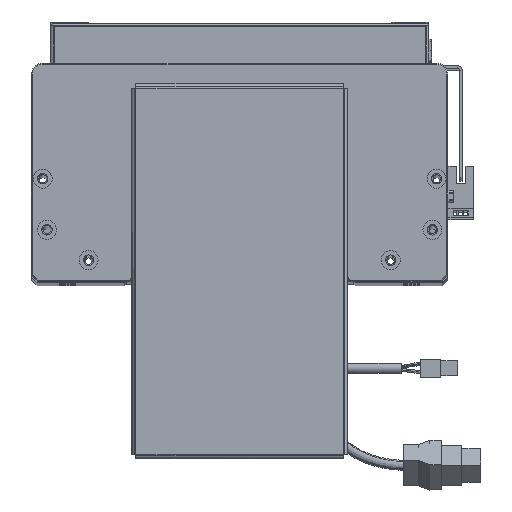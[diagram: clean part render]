
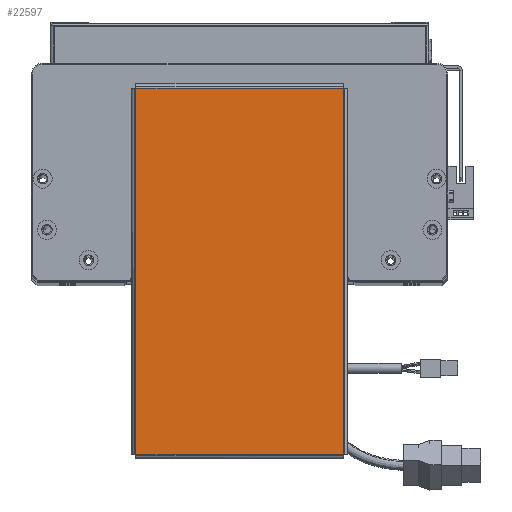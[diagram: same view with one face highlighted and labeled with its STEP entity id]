
A CAD part, top view. The second image highlights one B-rep face of the part: STEP entity #22597.
In plain terms, the highlighted planar face has unit normal (0, 0, 1).
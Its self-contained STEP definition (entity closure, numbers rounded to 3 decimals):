
#2551 = LINE ( 'NONE', #52157, #42416 ) ;
#5632 = CARTESIAN_POINT ( 'NONE',  ( 96.763, 54.763, 0. ) ) ;
#11364 = VECTOR ( 'NONE', #61937, 1000. ) ;
#13913 = ORIENTED_EDGE ( 'NONE', *, *, #20737, .T. ) ;
#14064 = DIRECTION ( 'NONE',  ( 0., 0., 1. ) ) ;
#14631 = EDGE_CURVE ( 'NONE', #22362, #54471, #65678, .T. ) ;
#15545 = ORIENTED_EDGE ( 'NONE', *, *, #20359, .T. ) ;
#17104 = AXIS2_PLACEMENT_3D ( 'NONE', #65167, #14064, #39295 ) ;
#17140 = EDGE_CURVE ( 'NONE', #54471, #54017, #61921, .T. ) ;
#20359 = EDGE_CURVE ( 'NONE', #54017, #27286, #60858, .T. ) ;
#20737 = EDGE_CURVE ( 'NONE', #27286, #22362, #2551, .T. ) ;
#21595 = DIRECTION ( 'NONE',  ( 0., -1., 0. ) ) ;
#22362 = VERTEX_POINT ( 'NONE', #33159 ) ;
#22597 = ADVANCED_FACE ( 'NONE', ( #50149 ), #65593, .T. ) ;
#24899 = VECTOR ( 'NONE', #53799, 1000. ) ;
#27286 = VERTEX_POINT ( 'NONE', #59482 ) ;
#31065 = ORIENTED_EDGE ( 'NONE', *, *, #14631, .T. ) ;
#31334 = CARTESIAN_POINT ( 'NONE',  ( -96.793, -54.763, 0. ) ) ;
#31580 = ORIENTED_EDGE ( 'NONE', *, *, #17140, .T. ) ;
#31762 = EDGE_LOOP ( 'NONE', ( #31065, #31580, #15545, #13913 ) ) ;
#32379 = VECTOR ( 'NONE', #39658, 1000. ) ;
#33159 = CARTESIAN_POINT ( 'NONE',  ( -96.763, -54.763, 0. ) ) ;
#39295 = DIRECTION ( 'NONE',  ( 1., 0., 0. ) ) ;
#39658 = DIRECTION ( 'NONE',  ( 0., 1., 0. ) ) ;
#42416 = VECTOR ( 'NONE', #21595, 1000. ) ;
#49087 = CARTESIAN_POINT ( 'NONE',  ( 96.763, -54.763, 0. ) ) ;
#50149 = FACE_OUTER_BOUND ( 'NONE', #31762, .T. ) ;
#52157 = CARTESIAN_POINT ( 'NONE',  ( -96.763, 54.793, 0. ) ) ;
#53799 = DIRECTION ( 'NONE',  ( -1., 0., 0. ) ) ;
#54017 = VERTEX_POINT ( 'NONE', #5632 ) ;
#54471 = VERTEX_POINT ( 'NONE', #49087 ) ;
#55678 = CARTESIAN_POINT ( 'NONE',  ( 96.763, -54.793, 0. ) ) ;
#59354 = CARTESIAN_POINT ( 'NONE',  ( 96.793, 54.763, 0. ) ) ;
#59482 = CARTESIAN_POINT ( 'NONE',  ( -96.763, 54.763, 0. ) ) ;
#60858 = LINE ( 'NONE', #59354, #24899 ) ;
#61921 = LINE ( 'NONE', #55678, #32379 ) ;
#61937 = DIRECTION ( 'NONE',  ( 1., 0., 0. ) ) ;
#65167 = CARTESIAN_POINT ( 'NONE',  ( 0., 0., 0. ) ) ;
#65593 = PLANE ( 'NONE',  #17104 ) ;
#65678 = LINE ( 'NONE', #31334, #11364 ) ;
